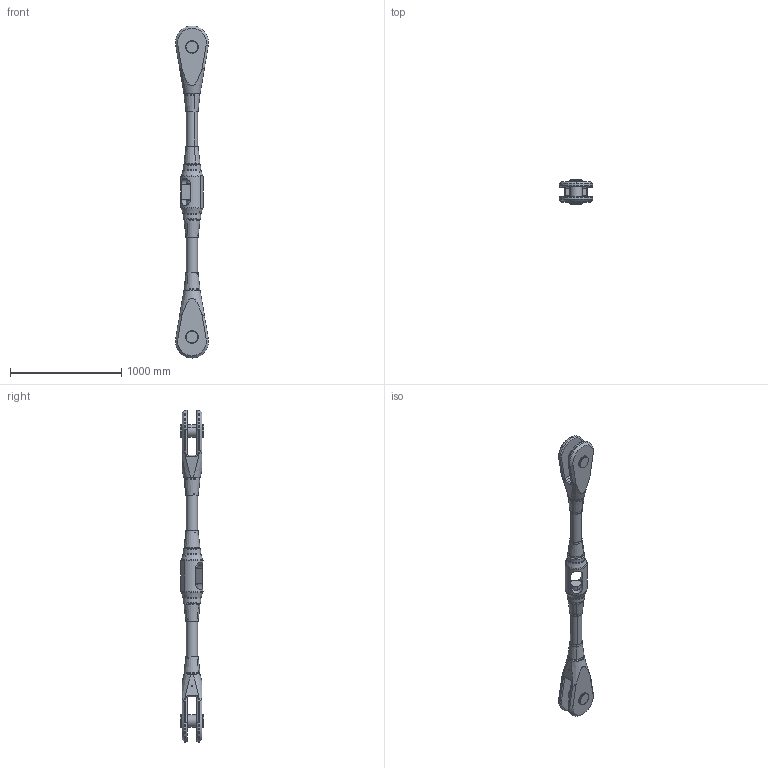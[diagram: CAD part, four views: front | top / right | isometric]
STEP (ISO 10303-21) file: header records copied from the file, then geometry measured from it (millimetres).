
FILE_DESCRIPTION (( 'STEP AP203' ), '1' );
FILE_NAME ('M100 G+AB+K.STEP', '2018-02-14T14:13:19', ( 'install' ), ( 'Hewlett-Packard Company' ), 'SwSTEP 2.0', 'SolidWorks 2017', '' );
FILE_SCHEMA (( 'CONFIG_CONTROL_DESIGN' ));
Length unit declared in the file: millimetre
Products named in the file (6): Zugstab_M100; Bolzen SicherungsringVarB_generisch_M100; Gabelkopf Kunde_M100; M100 G+AB+K; Abdeckhülse_generisch_M100; Kreuzmuffe_M100
Assembly tree (11 placements, depth 2):
  M100 G+AB+K
    Gabelkopf Kunde_M100  x2
    Abdeckhülse_generisch_M100  x4
    Kreuzmuffe_M100
    Zugstab_M100  x2
    Bolzen SicherungsringVarB_generisch_M100  x2
Bounding box: 298 x 211.2 x 2981 mm (x, y, z)
Volume: 53495331.3 mm3; surface area: 3145201.4 mm2
Topology: 11 solids, 11 shells, 314 faces, 762 edges, 462 vertices
Faces by surface type: cylinder 158, plane 68, cone 54, torus 26, bspline 8
Entity records: 6890 total; most frequent: CARTESIAN_POINT 2645, DIRECTION 762, ORIENTED_EDGE 706, EDGE_CURVE 353, AXIS2_PLACEMENT_3D 321, VERTEX_POINT 210, EDGE_LOOP 173, CIRCLE 161
